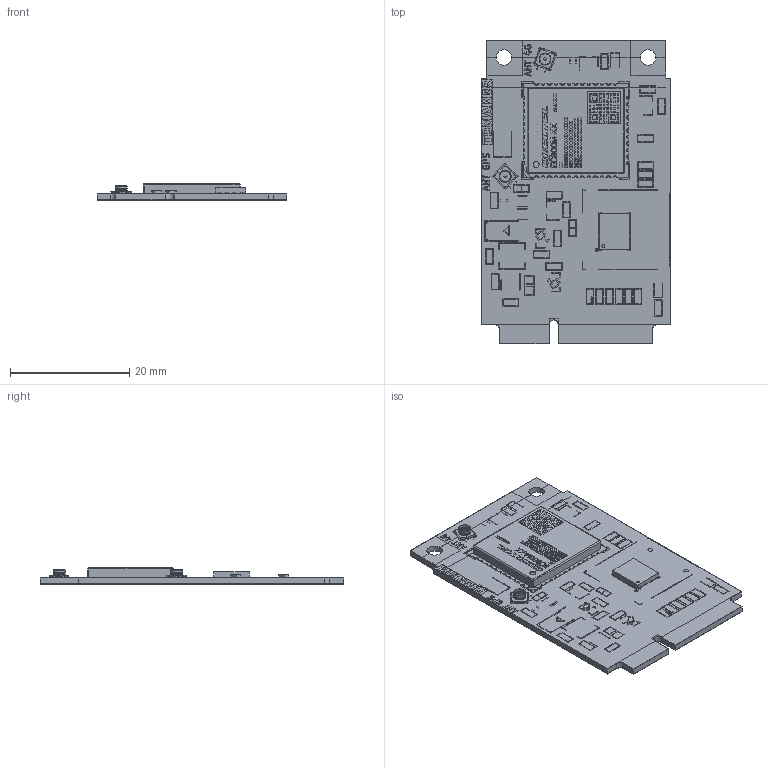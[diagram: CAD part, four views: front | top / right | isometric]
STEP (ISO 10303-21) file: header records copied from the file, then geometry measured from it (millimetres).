
FILE_DESCRIPTION(('KiCad electronic assembly'),'2;1');
FILE_NAME('.step','2026-10-09T14:17:09',('Pcbnew'),('Kicad'), 'Open CASCADE STEP processor 7.9','KiCad to STEP converter','Unknown' );
FILE_SCHEMA(('AUTOMOTIVE_DESIGN { 1 0 10303 214 1 1 1 1 }'));
Length unit declared in the file: millimetre
Products named in the file (12): .step 1; EC800M-CN_3D_V1; EC800M_PCB; EC800N_COVER; DFN-S-8-1EP_6x5mm_P1.27mm; U.FL_Hirose_U.FL-R-SMT-1_Vertical; R_0603_1608Metric; TDM2410_silkscreen; TDM2410_soldermask; TDM2410_PCB
Assembly tree (13 placements, depth 3):
  .step 1
    EC800M-CN_3D_V1
      EC800M_PCB
      EC800N_COVER
    DFN-S-8-1EP_6x5mm_P1.27mm
    U.FL_Hirose_U.FL-R-SMT-1_Vertical  x2
    R_0603_1608Metric  x2
    TDM2410_silkscreen
    TDM2410_silkscreen
    TDM2410_soldermask
    TDM2410_soldermask
    TDM2410_PCB
Bounding box: 31.8 x 50.95 x 2.76 mm (x, y, z)
Volume: 1890.1 mm3; surface area: 7854.5 mm2
Topology: 8 solids, 122 shells, 3067 faces, 9675 edges, 6913 vertices
Faces by surface type: plane 2870, cylinder 151, bspline 38, cone 6, sphere 2
Full cylindrical faces by diameter (mm): 0.4 x2, 0.5 x1, 0.75 x2, 1 x1, 1.8 x2, 1.92 x2, 2 x4, 2.6 x2
Entity records: 108150 total; most frequent: CARTESIAN_POINT 19824, ORIENTED_EDGE 17357, DIRECTION 16029, EDGE_CURVE 9489, LINE 8759, VECTOR 8759, VERTEX_POINT 6802, AXIS2_PLACEMENT_3D 3635
